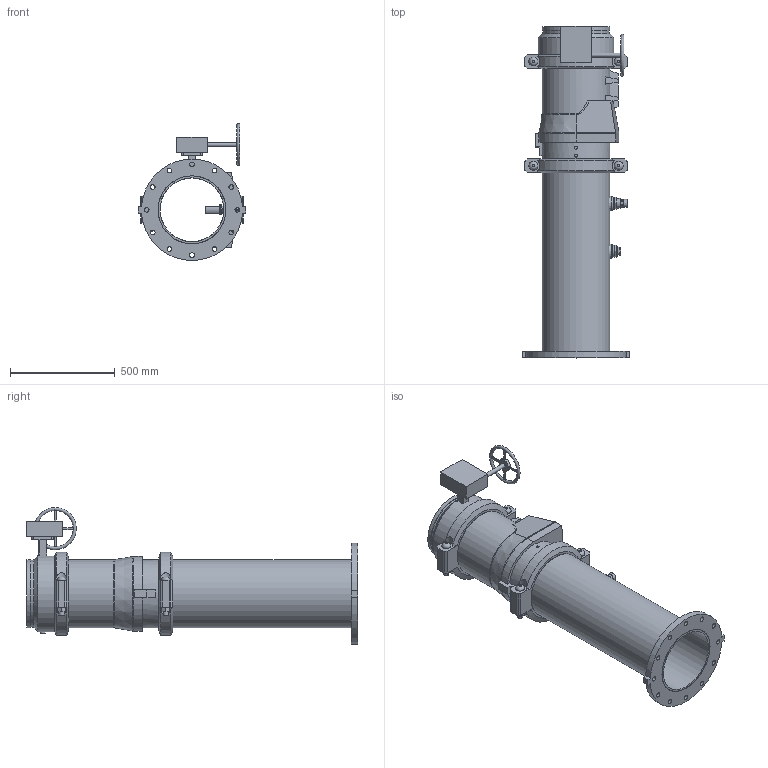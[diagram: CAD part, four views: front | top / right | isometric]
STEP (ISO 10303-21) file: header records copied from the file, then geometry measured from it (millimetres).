
FILE_DESCRIPTION(/* description */ ('VIC DVI PUMP DROP VERT S/380 (OGSxFLG) (S/924-0.75)','CAx-IF Rec.Pracs.---Representation and Presentation of Product Manufacturing Information (PMI)---4.0---2014-10-13'),/* implementation_level */ '2;1');
FILE_NAME(/* name */ 'C:\Users\Public\Documents\Victaulic.Temp\A765\Victaulic_IPS_Vertical DVI_CL 150_Series 380 (OGSxFLG)_924 (0.75)_12.0x12.0 (300x300).stp',/* time_stamp */ '2022-07-25T11:15:13+02:00',/* author */ ('Vjadhav'),/* organization */ ('Victaulic'),/* preprocessor_version */ 'ST-DEVELOPER v18',/* originating_system */ 'Autodesk Inventor 2020',/* authorisation */ '');
FILE_SCHEMA (('AP242_MANAGED_MODEL_BASED_3D_ENGINEERING_MIM_LF { 1 0 10303 442 1 1 4 }'));
Length unit declared in the file: inch
Products named in the file (8): 380_924 (0.75)-12.0x12.0; 741-12.0; Pipe-12.0x12.0; 779-12.0; 923-10.0x0.75; 924-10.0x0.75; 761-12.0; 077-12.0
Assembly tree (8 placements, depth 2):
  380_924 (0.75)-12.0x12.0
    741-12.0
    Pipe-12.0x12.0
    779-12.0
    923-10.0x0.75
    924-10.0x0.75
    761-12.0
    077-12.0  x2
Bounding box: 514.35 x 1580.9 x 652.25 mm (x, y, z)
Volume: 34873654.5 mm3; surface area: 4548826.7 mm2
Topology: 8 solids, 13 shells, 421 faces, 1067 edges, 724 vertices
Faces by surface type: plane 257, cylinder 137, cone 14, torus 7, bspline 6
Full cylindrical faces by diameter (mm): 10.922 x4, 13.716 x4, 20.066 x1, 21.336 x1, 22.225 x12, 22.86 x1, 25.4 x8, 26.67 x2, 27.432 x4, 31.75 x1, 38.608 x1, 45.974 x4, 55.626 x2, 63.079 x1, 70.104 x1, 76.2 x1, 303.225 x2, 304.8 x1, 314.96 x2, 318.287 x6, 323.85 x16, 361.95 x1
Entity records: 12330 total; most frequent: CARTESIAN_POINT 2481, DIRECTION 1994, ORIENTED_EDGE 1844, EDGE_CURVE 922, AXIS2_PLACEMENT_3D 753, VERTEX_POINT 626, LINE 488, VECTOR 488
